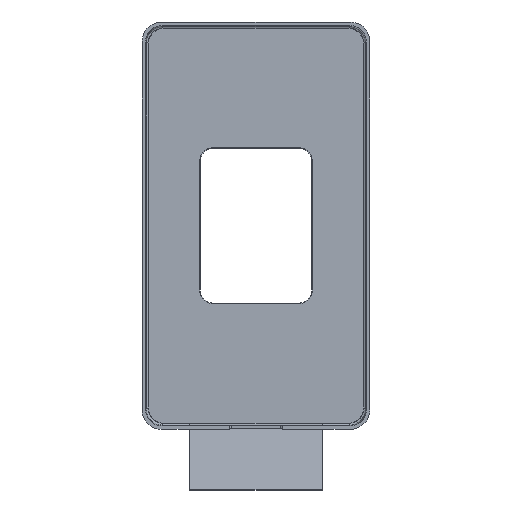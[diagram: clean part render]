
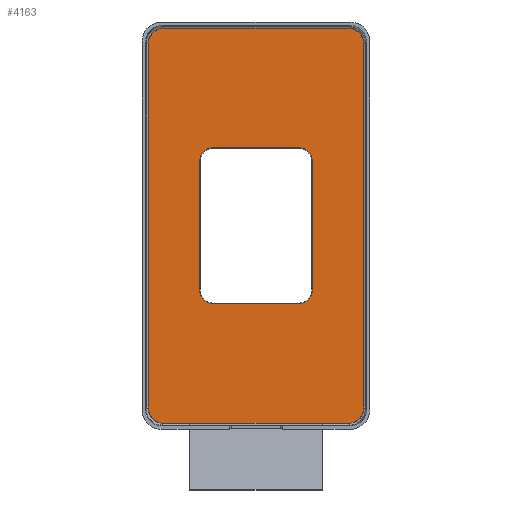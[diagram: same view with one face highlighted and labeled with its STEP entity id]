
A CAD part, top view. The second image highlights one B-rep face of the part: STEP entity #4163.
In plain terms, the highlighted planar face has unit normal (0, 0, 1) as drawn and (0, 0, -1) by its records, which use the part's own axes.
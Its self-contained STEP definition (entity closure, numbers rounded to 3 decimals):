
#483=LINE('',#7001,#744);
#488=LINE('',#7012,#749);
#490=LINE('',#7016,#751);
#496=LINE('',#7030,#757);
#498=LINE('',#7034,#759);
#507=LINE('',#7065,#768);
#508=LINE('',#7070,#769);
#509=LINE('',#7074,#770);
#510=LINE('',#7078,#771);
#511=LINE('',#7084,#772);
#744=VECTOR('',#5005,1000.);
#749=VECTOR('',#5012,1000.);
#751=VECTOR('',#5016,1000.);
#757=VECTOR('',#5024,1000.);
#759=VECTOR('',#5028,1000.);
#768=VECTOR('',#5057,1000.);
#769=VECTOR('',#5060,1000.);
#770=VECTOR('',#5063,1000.);
#771=VECTOR('',#5066,1000.);
#772=VECTOR('',#5075,1000.);
#1634=ORIENTED_EDGE('',*,*,#2161,.F.);
#1635=ORIENTED_EDGE('',*,*,#2162,.T.);
#1636=ORIENTED_EDGE('',*,*,#2163,.F.);
#1637=ORIENTED_EDGE('',*,*,#2164,.T.);
#1638=ORIENTED_EDGE('',*,*,#2165,.F.);
#1639=ORIENTED_EDGE('',*,*,#2166,.T.);
#1640=ORIENTED_EDGE('',*,*,#2167,.F.);
#1641=ORIENTED_EDGE('',*,*,#2168,.T.);
#1642=ORIENTED_EDGE('',*,*,#2134,.F.);
#1643=ORIENTED_EDGE('',*,*,#2169,.T.);
#1644=ORIENTED_EDGE('',*,*,#2144,.F.);
#1645=ORIENTED_EDGE('',*,*,#2170,.T.);
#1646=ORIENTED_EDGE('',*,*,#2142,.F.);
#1647=ORIENTED_EDGE('',*,*,#2171,.T.);
#1648=ORIENTED_EDGE('',*,*,#2129,.F.);
#1649=ORIENTED_EDGE('',*,*,#2172,.T.);
#1650=ORIENTED_EDGE('',*,*,#2136,.F.);
#1651=ORIENTED_EDGE('',*,*,#2173,.T.);
#2129=EDGE_CURVE('',#2454,#2455,#483,.T.);
#2134=EDGE_CURVE('',#2459,#2460,#488,.T.);
#2136=EDGE_CURVE('',#2461,#2462,#490,.T.);
#2142=EDGE_CURVE('',#2467,#2468,#496,.T.);
#2144=EDGE_CURVE('',#2469,#2470,#498,.T.);
#2161=EDGE_CURVE('',#2481,#2482,#507,.T.);
#2162=EDGE_CURVE('',#2481,#2483,#2559,.T.);
#2163=EDGE_CURVE('',#2484,#2483,#508,.T.);
#2164=EDGE_CURVE('',#2484,#2485,#2560,.T.);
#2165=EDGE_CURVE('',#2486,#2485,#509,.T.);
#2166=EDGE_CURVE('',#2486,#2487,#2561,.T.);
#2167=EDGE_CURVE('',#2488,#2487,#510,.T.);
#2168=EDGE_CURVE('',#2488,#2482,#2562,.T.);
#2169=EDGE_CURVE('',#2459,#2470,#2563,.F.);
#2170=EDGE_CURVE('',#2469,#2468,#2564,.F.);
#2171=EDGE_CURVE('',#2467,#2455,#2565,.F.);
#2172=EDGE_CURVE('',#2454,#2462,#511,.T.);
#2173=EDGE_CURVE('',#2461,#2460,#2566,.F.);
#2454=VERTEX_POINT('',#7000);
#2455=VERTEX_POINT('',#7002);
#2459=VERTEX_POINT('',#7011);
#2460=VERTEX_POINT('',#7013);
#2461=VERTEX_POINT('',#7017);
#2462=VERTEX_POINT('',#7018);
#2467=VERTEX_POINT('',#7029);
#2468=VERTEX_POINT('',#7031);
#2469=VERTEX_POINT('',#7035);
#2470=VERTEX_POINT('',#7036);
#2481=VERTEX_POINT('',#7066);
#2482=VERTEX_POINT('',#7067);
#2483=VERTEX_POINT('',#7069);
#2484=VERTEX_POINT('',#7071);
#2485=VERTEX_POINT('',#7073);
#2486=VERTEX_POINT('',#7075);
#2487=VERTEX_POINT('',#7077);
#2488=VERTEX_POINT('',#7079);
#2559=CIRCLE('',#4395,2.1);
#2560=CIRCLE('',#4396,2.1);
#2561=CIRCLE('',#4397,2.1);
#2562=CIRCLE('',#4398,2.1);
#2563=CIRCLE('',#4399,2.5);
#2564=CIRCLE('',#4400,2.5);
#2565=CIRCLE('',#4401,2.5);
#2566=CIRCLE('',#4402,2.5);
#2740=EDGE_LOOP('',(#1634,#1635,#1636,#1637,#1638,#1639,#1640,#1641));
#2741=EDGE_LOOP('',(#1642,#1643,#1644,#1645,#1646,#1647,#1648,#1649,#1650,
#1651));
#2933=FACE_BOUND('',#2740,.T.);
#2934=FACE_BOUND('',#2741,.T.);
#3022=PLANE('',#4394);
#4163=ADVANCED_FACE('',(#2933,#2934),#3022,.F.);
#4394=AXIS2_PLACEMENT_3D('',#7064,#5055,#5056);
#4395=AXIS2_PLACEMENT_3D('',#7068,#5058,#5059);
#4396=AXIS2_PLACEMENT_3D('',#7072,#5061,#5062);
#4397=AXIS2_PLACEMENT_3D('',#7076,#5064,#5065);
#4398=AXIS2_PLACEMENT_3D('',#7080,#5067,#5068);
#4399=AXIS2_PLACEMENT_3D('',#7081,#5069,#5070);
#4400=AXIS2_PLACEMENT_3D('',#7082,#5071,#5072);
#4401=AXIS2_PLACEMENT_3D('',#7083,#5073,#5074);
#4402=AXIS2_PLACEMENT_3D('',#7085,#5076,#5077);
#5005=DIRECTION('',(1.,0.,0.));
#5012=DIRECTION('',(0.,-1.,0.));
#5016=DIRECTION('',(1.,0.,0.));
#5024=DIRECTION('',(0.,1.,0.));
#5028=DIRECTION('',(-1.,0.,0.));
#5055=DIRECTION('',(0.,0.,1.));
#5056=DIRECTION('',(1.,0.,0.));
#5057=DIRECTION('',(-1.,0.,0.));
#5058=DIRECTION('',(0.,0.,1.));
#5059=DIRECTION('',(1.,0.,0.));
#5060=DIRECTION('',(0.,-1.,0.));
#5061=DIRECTION('',(0.,0.,1.));
#5062=DIRECTION('',(1.,0.,0.));
#5063=DIRECTION('',(1.,0.,0.));
#5064=DIRECTION('',(0.,0.,1.));
#5065=DIRECTION('',(1.,0.,0.));
#5066=DIRECTION('',(0.,1.,0.));
#5067=DIRECTION('',(0.,0.,1.));
#5068=DIRECTION('',(1.,0.,0.));
#5069=DIRECTION('',(0.,0.,1.));
#5070=DIRECTION('',(1.,0.,0.));
#5071=DIRECTION('',(0.,0.,1.));
#5072=DIRECTION('',(1.,0.,0.));
#5073=DIRECTION('',(0.,0.,1.));
#5074=DIRECTION('',(1.,0.,0.));
#5075=DIRECTION('',(-1.,0.,0.));
#5076=DIRECTION('',(0.,0.,1.));
#5077=DIRECTION('',(1.,0.,0.));
#7000=CARTESIAN_POINT('',(10.,-29.75,0.));
#7001=CARTESIAN_POINT('',(-16.25,-29.75,0.));
#7002=CARTESIAN_POINT('',(13.75,-29.75,0.));
#7011=CARTESIAN_POINT('',(-16.25,27.25,0.));
#7012=CARTESIAN_POINT('',(-16.25,29.75,0.));
#7013=CARTESIAN_POINT('',(-16.25,-27.25,0.));
#7016=CARTESIAN_POINT('',(-16.25,-29.75,0.));
#7017=CARTESIAN_POINT('',(-13.75,-29.75,0.));
#7018=CARTESIAN_POINT('',(-10.,-29.75,0.));
#7029=CARTESIAN_POINT('',(16.25,-27.25,0.));
#7030=CARTESIAN_POINT('',(16.25,-29.75,0.));
#7031=CARTESIAN_POINT('',(16.25,27.25,0.));
#7034=CARTESIAN_POINT('',(16.25,29.75,0.));
#7035=CARTESIAN_POINT('',(13.75,29.75,0.));
#7036=CARTESIAN_POINT('',(-13.75,29.75,0.));
#7064=CARTESIAN_POINT('',(0.,0.,0.));
#7065=CARTESIAN_POINT('',(8.5,-11.75,0.));
#7066=CARTESIAN_POINT('',(6.4,-11.75,0.));
#7067=CARTESIAN_POINT('',(-6.4,-11.75,0.));
#7068=CARTESIAN_POINT('',(6.4,-9.65,0.));
#7069=CARTESIAN_POINT('',(8.5,-9.65,0.));
#7070=CARTESIAN_POINT('',(8.5,11.75,0.));
#7071=CARTESIAN_POINT('',(8.5,9.65,0.));
#7072=CARTESIAN_POINT('',(6.4,9.65,0.));
#7073=CARTESIAN_POINT('',(6.4,11.75,0.));
#7074=CARTESIAN_POINT('',(-8.5,11.75,0.));
#7075=CARTESIAN_POINT('',(-6.4,11.75,0.));
#7076=CARTESIAN_POINT('',(-6.4,9.65,0.));
#7077=CARTESIAN_POINT('',(-8.5,9.65,0.));
#7078=CARTESIAN_POINT('',(-8.5,-11.75,0.));
#7079=CARTESIAN_POINT('',(-8.5,-9.65,0.));
#7080=CARTESIAN_POINT('',(-6.4,-9.65,0.));
#7081=CARTESIAN_POINT('',(-13.75,27.25,0.));
#7082=CARTESIAN_POINT('',(13.75,27.25,0.));
#7083=CARTESIAN_POINT('',(13.75,-27.25,0.));
#7084=CARTESIAN_POINT('',(10.,-29.75,0.));
#7085=CARTESIAN_POINT('',(-13.75,-27.25,0.));
